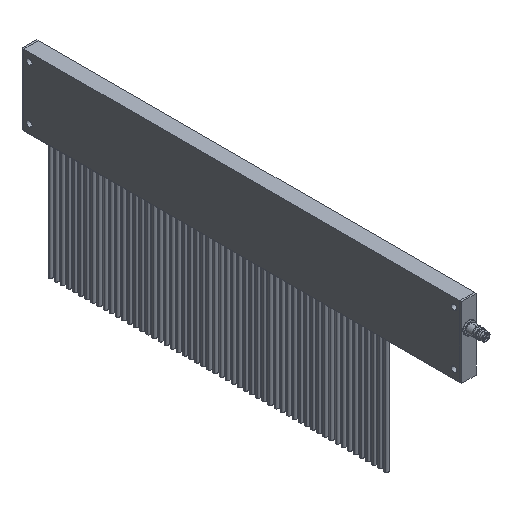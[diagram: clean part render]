
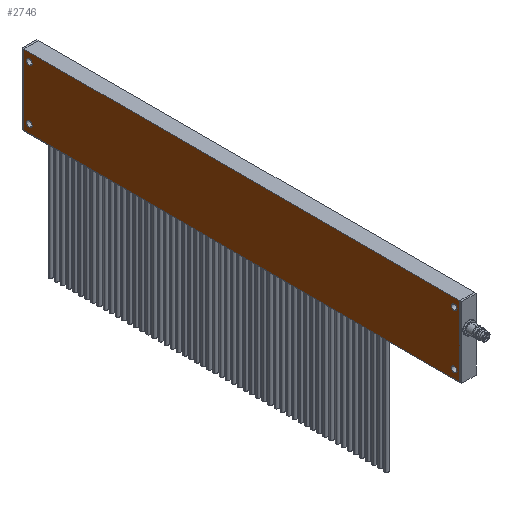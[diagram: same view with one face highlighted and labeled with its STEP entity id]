
A CAD part, isometric view. The second image highlights one B-rep face of the part: STEP entity #2746.
In plain terms, the highlighted planar face has unit normal (-1, 0, 0).
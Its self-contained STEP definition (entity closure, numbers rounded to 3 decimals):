
#12 = VERTEX_POINT ( 'NONE', #6421 ) ;
#141 = EDGE_CURVE ( 'NONE', #12, #2305, #6260, .T. ) ;
#252 = DIRECTION ( 'NONE',  ( 0., 0., 1. ) ) ;
#317 = DIRECTION ( 'NONE',  ( 0., -1., 0. ) ) ;
#364 = LINE ( 'NONE', #4888, #4466 ) ;
#491 = CARTESIAN_POINT ( 'NONE',  ( -37.032, 206.557, -21.988 ) ) ;
#518 = VERTEX_POINT ( 'NONE', #525 ) ;
#525 = CARTESIAN_POINT ( 'NONE',  ( -37.032, 206.557, -24.238 ) ) ;
#609 = FACE_BOUND ( 'NONE', #5528, .T. ) ;
#737 = ORIENTED_EDGE ( 'NONE', *, *, #3313, .F. ) ;
#769 = AXIS2_PLACEMENT_3D ( 'NONE', #7684, #9043, #4945 ) ;
#779 = AXIS2_PLACEMENT_3D ( 'NONE', #4522, #9865, #5313 ) ;
#910 = CARTESIAN_POINT ( 'NONE',  ( -37.032, -141.443, -21.988 ) ) ;
#922 = ORIENTED_EDGE ( 'NONE', *, *, #6784, .T. ) ;
#1002 = CARTESIAN_POINT ( 'NONE',  ( -37.032, 270.308, -28.812 ) ) ;
#1013 = AXIS2_PLACEMENT_3D ( 'NONE', #491, #5881, #1261 ) ;
#1184 = VERTEX_POINT ( 'NONE', #6844 ) ;
#1188 = EDGE_LOOP ( 'NONE', ( #3535, #2918 ) ) ;
#1261 = DIRECTION ( 'NONE',  ( 0., 0., 1. ) ) ;
#1273 = CARTESIAN_POINT ( 'NONE',  ( -37.032, 206.557, 22.012 ) ) ;
#1330 = EDGE_LOOP ( 'NONE', ( #2639, #922, #9650, #737 ) ) ;
#1357 = CIRCLE ( 'NONE', #6138, 2.25 ) ;
#1366 = CARTESIAN_POINT ( 'NONE',  ( -37.032, -141.443, -24.238 ) ) ;
#1439 = AXIS2_PLACEMENT_3D ( 'NONE', #6862, #2268, #7645 ) ;
#1703 = DIRECTION ( 'NONE',  ( 0., 0., 1. ) ) ;
#1925 = CARTESIAN_POINT ( 'NONE',  ( -37.032, 211.057, 29.012 ) ) ;
#1989 = AXIS2_PLACEMENT_3D ( 'NONE', #1273, #6663, #2060 ) ;
#2060 = DIRECTION ( 'NONE',  ( 0., 0., 1. ) ) ;
#2075 = VERTEX_POINT ( 'NONE', #7200 ) ;
#2209 = AXIS2_PLACEMENT_3D ( 'NONE', #910, #6301, #1703 ) ;
#2256 = CIRCLE ( 'NONE', #1013, 2.25 ) ;
#2268 = DIRECTION ( 'NONE',  ( -1., 0., 0. ) ) ;
#2270 = EDGE_LOOP ( 'NONE', ( #4559, #8460 ) ) ;
#2305 = VERTEX_POINT ( 'NONE', #5938 ) ;
#2556 = PLANE ( 'NONE',  #5346 ) ;
#2602 = DIRECTION ( 'NONE',  ( 0., -1., 0. ) ) ;
#2639 = ORIENTED_EDGE ( 'NONE', *, *, #6348, .F. ) ;
#2652 = FACE_OUTER_BOUND ( 'NONE', #1330, .T. ) ;
#2746 = ADVANCED_FACE ( 'NONE', ( #2898, #8773, #609, #8525, #2652 ), #2556, .F. ) ;
#2747 = EDGE_CURVE ( 'NONE', #2075, #4925, #364, .T. ) ;
#2880 = CIRCLE ( 'NONE', #1989, 2.25 ) ;
#2898 = FACE_BOUND ( 'NONE', #5845, .T. ) ;
#2918 = ORIENTED_EDGE ( 'NONE', *, *, #7581, .F. ) ;
#3313 = EDGE_CURVE ( 'NONE', #9106, #4925, #3746, .T. ) ;
#3329 = DIRECTION ( 'NONE',  ( 0., 0., -1. ) ) ;
#3505 = VECTOR ( 'NONE', #317, 1000. ) ;
#3535 = ORIENTED_EDGE ( 'NONE', *, *, #6665, .F. ) ;
#3608 = CARTESIAN_POINT ( 'NONE',  ( -37.032, 211.057, -28.812 ) ) ;
#3671 = EDGE_CURVE ( 'NONE', #2305, #12, #2880, .T. ) ;
#3746 = LINE ( 'NONE', #8019, #3505 ) ;
#3812 = CARTESIAN_POINT ( 'NONE',  ( -37.032, -141.443, 22.012 ) ) ;
#3827 = LINE ( 'NONE', #3608, #5618 ) ;
#3848 = CARTESIAN_POINT ( 'NONE',  ( -37.032, 206.557, -21.988 ) ) ;
#3935 = CARTESIAN_POINT ( 'NONE',  ( -37.032, 206.557, -19.738 ) ) ;
#4166 = CIRCLE ( 'NONE', #779, 2.25 ) ;
#4397 = CARTESIAN_POINT ( 'NONE',  ( -37.032, -145.943, 29.012 ) ) ;
#4466 = VECTOR ( 'NONE', #252, 1000. ) ;
#4522 = CARTESIAN_POINT ( 'NONE',  ( -37.032, -141.443, 22.012 ) ) ;
#4559 = ORIENTED_EDGE ( 'NONE', *, *, #4853, .F. ) ;
#4573 = DIRECTION ( 'NONE',  ( 0., 0., 1. ) ) ;
#4611 = DIRECTION ( 'NONE',  ( 0., 0., 1. ) ) ;
#4758 = CARTESIAN_POINT ( 'NONE',  ( -37.032, -141.443, -19.738 ) ) ;
#4853 = EDGE_CURVE ( 'NONE', #9427, #518, #2256, .T. ) ;
#4888 = CARTESIAN_POINT ( 'NONE',  ( -37.032, -145.943, -28.812 ) ) ;
#4925 = VERTEX_POINT ( 'NONE', #4397 ) ;
#4945 = DIRECTION ( 'NONE',  ( 0., 0., 1. ) ) ;
#5101 = AXIS2_PLACEMENT_3D ( 'NONE', #3812, #9156, #4573 ) ;
#5164 = ORIENTED_EDGE ( 'NONE', *, *, #141, .F. ) ;
#5313 = DIRECTION ( 'NONE',  ( 0., 0., 1. ) ) ;
#5346 = AXIS2_PLACEMENT_3D ( 'NONE', #1002, #7942, #3329 ) ;
#5528 = EDGE_LOOP ( 'NONE', ( #6419, #9013 ) ) ;
#5618 = VECTOR ( 'NONE', #8949, 1000. ) ;
#5704 = CIRCLE ( 'NONE', #5101, 2.25 ) ;
#5823 = ORIENTED_EDGE ( 'NONE', *, *, #3671, .F. ) ;
#5845 = EDGE_LOOP ( 'NONE', ( #5164, #5823 ) ) ;
#5881 = DIRECTION ( 'NONE',  ( -1., 0., 0. ) ) ;
#5938 = CARTESIAN_POINT ( 'NONE',  ( -37.032, 206.557, 19.762 ) ) ;
#6100 = LINE ( 'NONE', #6486, #8121 ) ;
#6138 = AXIS2_PLACEMENT_3D ( 'NONE', #3848, #9181, #4611 ) ;
#6260 = CIRCLE ( 'NONE', #769, 2.25 ) ;
#6301 = DIRECTION ( 'NONE',  ( -1., 0., 0. ) ) ;
#6348 = EDGE_CURVE ( 'NONE', #7611, #9106, #3827, .T. ) ;
#6419 = ORIENTED_EDGE ( 'NONE', *, *, #7026, .F. ) ;
#6421 = CARTESIAN_POINT ( 'NONE',  ( -37.032, 206.557, 24.262 ) ) ;
#6486 = CARTESIAN_POINT ( 'NONE',  ( -37.032, 270.308, -28.812 ) ) ;
#6663 = DIRECTION ( 'NONE',  ( -1., 0., 0. ) ) ;
#6665 = EDGE_CURVE ( 'NONE', #9487, #9819, #7032, .T. ) ;
#6784 = EDGE_CURVE ( 'NONE', #7611, #2075, #6100, .T. ) ;
#6844 = CARTESIAN_POINT ( 'NONE',  ( -37.032, -141.443, 24.262 ) ) ;
#6862 = CARTESIAN_POINT ( 'NONE',  ( -37.032, -141.443, -21.988 ) ) ;
#7026 = EDGE_CURVE ( 'NONE', #1184, #9115, #4166, .T. ) ;
#7032 = CIRCLE ( 'NONE', #2209, 2.25 ) ;
#7200 = CARTESIAN_POINT ( 'NONE',  ( -37.032, -145.943, -28.812 ) ) ;
#7281 = CIRCLE ( 'NONE', #1439, 2.25 ) ;
#7581 = EDGE_CURVE ( 'NONE', #9819, #9487, #7281, .T. ) ;
#7611 = VERTEX_POINT ( 'NONE', #7676 ) ;
#7645 = DIRECTION ( 'NONE',  ( 0., 0., 1. ) ) ;
#7676 = CARTESIAN_POINT ( 'NONE',  ( -37.032, 211.057, -28.812 ) ) ;
#7684 = CARTESIAN_POINT ( 'NONE',  ( -37.032, 206.557, 22.012 ) ) ;
#7942 = DIRECTION ( 'NONE',  ( 1., 0., 0. ) ) ;
#8019 = CARTESIAN_POINT ( 'NONE',  ( -37.032, 270.308, 29.012 ) ) ;
#8121 = VECTOR ( 'NONE', #2602, 1000. ) ;
#8460 = ORIENTED_EDGE ( 'NONE', *, *, #9364, .F. ) ;
#8525 = FACE_BOUND ( 'NONE', #1188, .T. ) ;
#8773 = FACE_BOUND ( 'NONE', #2270, .T. ) ;
#8949 = DIRECTION ( 'NONE',  ( 0., 0., 1. ) ) ;
#9013 = ORIENTED_EDGE ( 'NONE', *, *, #9346, .F. ) ;
#9043 = DIRECTION ( 'NONE',  ( -1., 0., 0. ) ) ;
#9106 = VERTEX_POINT ( 'NONE', #1925 ) ;
#9115 = VERTEX_POINT ( 'NONE', #9595 ) ;
#9156 = DIRECTION ( 'NONE',  ( -1., 0., 0. ) ) ;
#9181 = DIRECTION ( 'NONE',  ( -1., 0., 0. ) ) ;
#9346 = EDGE_CURVE ( 'NONE', #9115, #1184, #5704, .T. ) ;
#9364 = EDGE_CURVE ( 'NONE', #518, #9427, #1357, .T. ) ;
#9427 = VERTEX_POINT ( 'NONE', #3935 ) ;
#9487 = VERTEX_POINT ( 'NONE', #4758 ) ;
#9595 = CARTESIAN_POINT ( 'NONE',  ( -37.032, -141.443, 19.762 ) ) ;
#9650 = ORIENTED_EDGE ( 'NONE', *, *, #2747, .T. ) ;
#9819 = VERTEX_POINT ( 'NONE', #1366 ) ;
#9865 = DIRECTION ( 'NONE',  ( -1., 0., 0. ) ) ;
